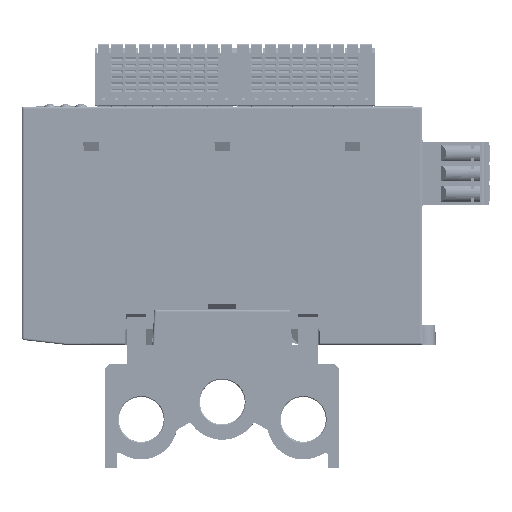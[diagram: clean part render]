
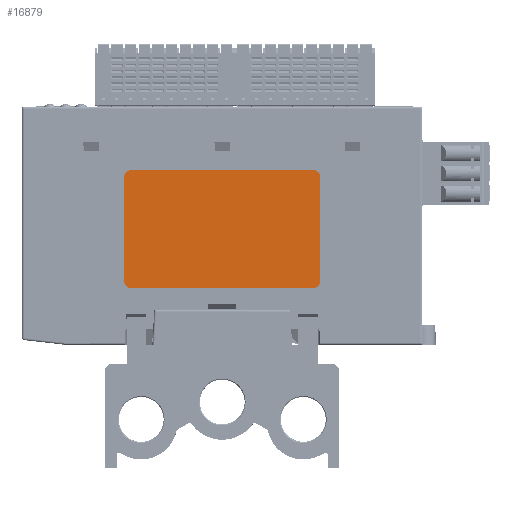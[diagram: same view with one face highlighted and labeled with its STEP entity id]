
A CAD part, front view. The second image highlights one B-rep face of the part: STEP entity #16879.
In plain terms, the highlighted planar face has unit normal (0, -1, 0).
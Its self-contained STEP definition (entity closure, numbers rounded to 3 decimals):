
#7438=FACE_OUTER_BOUND('',#71658,.T.);
#16879=ADVANCED_FACE('',(#7438),#26567,.F.);
#26567=PLANE('',#181879);
#34288=LINE('',#252446,#52447);
#34292=LINE('',#252454,#52451);
#34294=LINE('',#252458,#52453);
#34297=LINE('',#252466,#52456);
#52447=VECTOR('',#199507,1.);
#52451=VECTOR('',#199513,1.);
#52453=VECTOR('',#199517,1.);
#52456=VECTOR('',#199524,1.);
#71658=EDGE_LOOP('',(#85249,#85250,#85251,#85252,#85253,#85254,#85255,#85256));
#85249=ORIENTED_EDGE('',*,*,#152712,.F.);
#85250=ORIENTED_EDGE('',*,*,#152717,.T.);
#85251=ORIENTED_EDGE('',*,*,#152718,.F.);
#85252=ORIENTED_EDGE('',*,*,#152719,.T.);
#85253=ORIENTED_EDGE('',*,*,#152714,.F.);
#85254=ORIENTED_EDGE('',*,*,#152720,.T.);
#85255=ORIENTED_EDGE('',*,*,#152708,.F.);
#85256=ORIENTED_EDGE('',*,*,#152721,.T.);
#135355=VERTEX_POINT('',#252447);
#135356=VERTEX_POINT('',#252448);
#135357=VERTEX_POINT('',#252453);
#135358=VERTEX_POINT('',#252455);
#135359=VERTEX_POINT('',#252459);
#135360=VERTEX_POINT('',#252460);
#135361=VERTEX_POINT('',#252465);
#135362=VERTEX_POINT('',#252467);
#152708=EDGE_CURVE('',#135355,#135356,#34288,.T.);
#152712=EDGE_CURVE('',#135357,#135358,#34292,.T.);
#152714=EDGE_CURVE('',#135359,#135360,#34294,.T.);
#152717=EDGE_CURVE('',#135357,#135361,#176552,.T.);
#152718=EDGE_CURVE('',#135362,#135361,#34297,.T.);
#152719=EDGE_CURVE('',#135362,#135360,#176553,.T.);
#152720=EDGE_CURVE('',#135359,#135356,#176554,.T.);
#152721=EDGE_CURVE('',#135355,#135358,#176555,.T.);
#176552=CIRCLE('',#181875,1.8);
#176553=CIRCLE('',#181876,1.8);
#176554=CIRCLE('',#181877,1.8);
#176555=CIRCLE('',#181878,1.8);
#181875=AXIS2_PLACEMENT_3D('',#252464,#199522,#199523);
#181876=AXIS2_PLACEMENT_3D('',#252468,#199525,#199526);
#181877=AXIS2_PLACEMENT_3D('',#252469,#199527,#199528);
#181878=AXIS2_PLACEMENT_3D('',#252470,#199529,#199530);
#181879=AXIS2_PLACEMENT_3D('',#252471,#199531,#199532);
#199507=DIRECTION('',(0.,0.,-1.));
#199513=DIRECTION('',(1.,0.,0.));
#199517=DIRECTION('',(-1.,0.,0.));
#199522=DIRECTION('',(0.,-1.,0.));
#199523=DIRECTION('',(0.,0.,1.));
#199524=DIRECTION('',(0.,0.,1.));
#199525=DIRECTION('',(0.,-1.,0.));
#199526=DIRECTION('',(0.,0.,-1.));
#199527=DIRECTION('',(0.,-1.,0.));
#199528=DIRECTION('',(0.,0.,-1.));
#199529=DIRECTION('',(0.,-1.,0.));
#199530=DIRECTION('',(0.,0.,-1.));
#199531=DIRECTION('',(0.,1.,0.));
#199532=DIRECTION('',(0.,0.,-1.));
#252446=CARTESIAN_POINT('',(725.15,-402.14,34.634));
#252447=CARTESIAN_POINT('',(725.15,-402.14,47.934));
#252448=CARTESIAN_POINT('',(725.15,-402.14,21.334));
#252453=CARTESIAN_POINT('',(676.75,-402.14,49.734));
#252454=CARTESIAN_POINT('',(700.05,-402.14,49.734));
#252455=CARTESIAN_POINT('',(723.35,-402.14,49.734));
#252458=CARTESIAN_POINT('',(675.05,-402.14,19.534));
#252459=CARTESIAN_POINT('',(723.35,-402.14,19.534));
#252460=CARTESIAN_POINT('',(676.75,-402.14,19.534));
#252464=CARTESIAN_POINT('',(676.75,-402.14,47.934));
#252465=CARTESIAN_POINT('',(674.95,-402.14,47.934));
#252466=CARTESIAN_POINT('',(674.95,-402.14,34.634));
#252467=CARTESIAN_POINT('',(674.95,-402.14,21.334));
#252468=CARTESIAN_POINT('',(676.75,-402.14,21.334));
#252469=CARTESIAN_POINT('',(723.35,-402.14,21.334));
#252470=CARTESIAN_POINT('',(723.35,-402.14,47.934));
#252471=CARTESIAN_POINT('',(700.041,-402.14,23.341));
